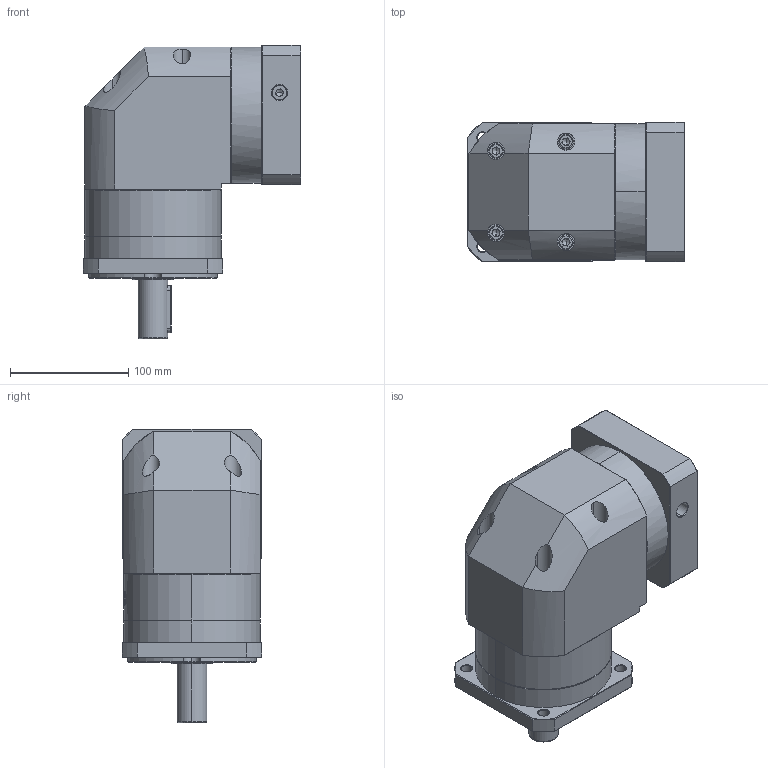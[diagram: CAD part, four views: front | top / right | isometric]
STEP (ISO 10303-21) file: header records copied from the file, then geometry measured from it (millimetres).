
FILE_DESCRIPTION (( 'STEP AP214' ), '1' );
FILE_NAME ('ZFR120A-D25-L1-P2-24-95-115-M6.step', '2023-08-27T08:02:08', ( '' ), ( '' ), 'SwSTEP 2.0', 'SolidWorks 2016', '' );
FILE_SCHEMA (( 'AUTOMOTIVE_DESIGN' ));
Length unit declared in the file: millimetre
Products named in the file (1): ZFR120A-D25-L1-P2-24-95-115-M6
Bounding box: 183.9 x 118 x 248 mm (x, y, z)
Volume: 2795395.3 mm3; surface area: 235241.3 mm2
Topology: 6 solids, 6 shells, 2252 faces, 5928 edges, 3780 vertices
Faces by surface type: plane 1060, bspline 428, cylinder 419, cone 337, torus 8
Entity records: 124323 total; most frequent: CARTESIAN_POINT 49457, ORIENTED_EDGE 11796, DIRECTION 8550, EDGE_CURVE 5898, VERTEX_POINT 3780, VECTOR 3138, LINE 3138, AXIS2_PLACEMENT_3D 2706
